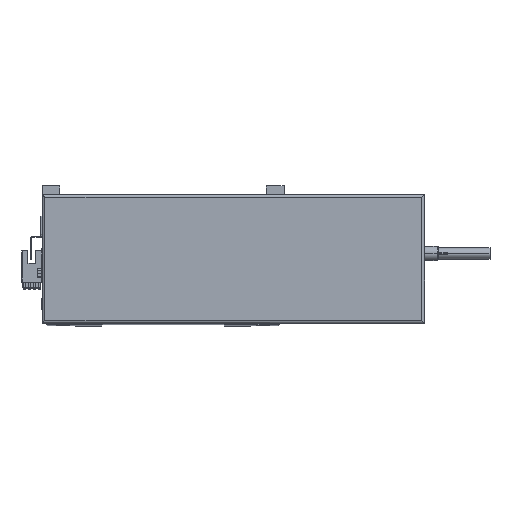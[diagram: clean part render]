
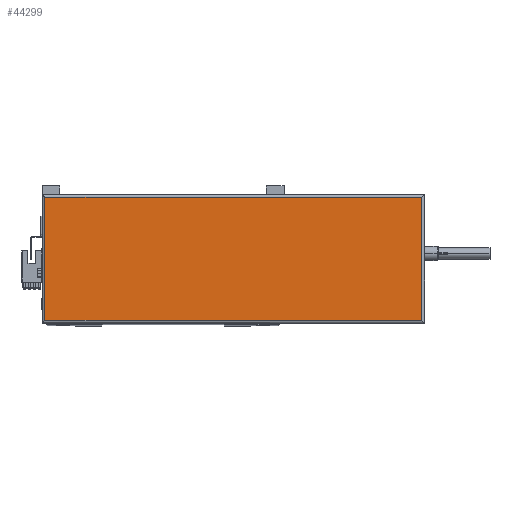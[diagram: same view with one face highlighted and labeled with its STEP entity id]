
A CAD part, top view. The second image highlights one B-rep face of the part: STEP entity #44299.
In plain terms, the highlighted planar face has unit normal (0, 0, 1).
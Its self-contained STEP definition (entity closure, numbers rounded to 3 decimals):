
#2261 = ORIENTED_EDGE ( 'NONE', *, *, #16748, .T. ) ;
#2952 = VERTEX_POINT ( 'NONE', #13427 ) ;
#6480 = CARTESIAN_POINT ( 'NONE',  ( 0., 88., 44.8 ) ) ;
#8411 = CARTESIAN_POINT ( 'NONE',  ( 267., 2., 44.8 ) ) ;
#8873 = LINE ( 'NONE', #17928, #18508 ) ;
#9474 = ORIENTED_EDGE ( 'NONE', *, *, #37870, .T. ) ;
#9569 = DIRECTION ( 'NONE',  ( 1., 0., 0. ) ) ;
#10552 = DIRECTION ( 'NONE',  ( 0., 1., 0. ) ) ;
#13427 = CARTESIAN_POINT ( 'NONE',  ( 2., 2., 44.8 ) ) ;
#16093 = ORIENTED_EDGE ( 'NONE', *, *, #39647, .T. ) ;
#16748 = EDGE_CURVE ( 'NONE', #2952, #28825, #20961, .T. ) ;
#17928 = CARTESIAN_POINT ( 'NONE',  ( 2., 0., 44.8 ) ) ;
#18508 = VECTOR ( 'NONE', #29143, 1000. ) ;
#20961 = LINE ( 'NONE', #8411, #38961 ) ;
#21697 = EDGE_LOOP ( 'NONE', ( #22523, #16093, #9474, #2261 ) ) ;
#22523 = ORIENTED_EDGE ( 'NONE', *, *, #34708, .T. ) ;
#25477 = VERTEX_POINT ( 'NONE', #37574 ) ;
#26063 = LINE ( 'NONE', #6480, #44051 ) ;
#28412 = CARTESIAN_POINT ( 'NONE',  ( 2., 88., 44.8 ) ) ;
#28825 = VERTEX_POINT ( 'NONE', #42669 ) ;
#29143 = DIRECTION ( 'NONE',  ( 0., -1., 0. ) ) ;
#31787 = VECTOR ( 'NONE', #10552, 1000. ) ;
#33485 = CARTESIAN_POINT ( 'NONE',  ( 265., 90., 44.8 ) ) ;
#34047 = FACE_OUTER_BOUND ( 'NONE', #21697, .T. ) ;
#34708 = EDGE_CURVE ( 'NONE', #28825, #25477, #40198, .T. ) ;
#35749 = VERTEX_POINT ( 'NONE', #28412 ) ;
#37300 = DIRECTION ( 'NONE',  ( -1., 0., 0. ) ) ;
#37574 = CARTESIAN_POINT ( 'NONE',  ( 265., 88., 44.8 ) ) ;
#37870 = EDGE_CURVE ( 'NONE', #35749, #2952, #8873, .T. ) ;
#38961 = VECTOR ( 'NONE', #9569, 1000. ) ;
#39647 = EDGE_CURVE ( 'NONE', #25477, #35749, #26063, .T. ) ;
#40198 = LINE ( 'NONE', #33485, #31787 ) ;
#41214 = DIRECTION ( 'NONE',  ( 1., 0., 0. ) ) ;
#41384 = CARTESIAN_POINT ( 'NONE',  ( 133.5, 45., 44.8 ) ) ;
#41865 = AXIS2_PLACEMENT_3D ( 'NONE', #41384, #49356, #41214 ) ;
#42669 = CARTESIAN_POINT ( 'NONE',  ( 265., 2., 44.8 ) ) ;
#44051 = VECTOR ( 'NONE', #37300, 1000. ) ;
#44299 = ADVANCED_FACE ( 'NONE', ( #34047 ), #45375, .T. ) ;
#45375 = PLANE ( 'NONE',  #41865 ) ;
#49356 = DIRECTION ( 'NONE',  ( 0., 0., 1. ) ) ;
